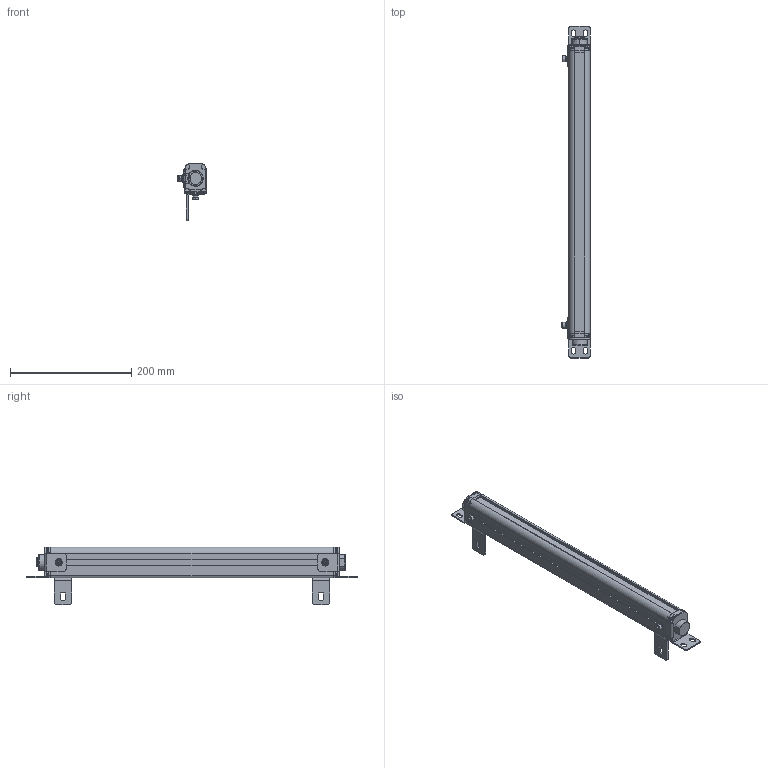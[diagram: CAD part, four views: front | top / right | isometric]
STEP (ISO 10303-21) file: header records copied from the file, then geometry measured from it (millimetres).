
FILE_DESCRIPTION((''),'2;1');
FILE_NAME('ESN--000_ASM','2021-08-10T21:16:05',('18720616900'),(''),'CREO PARAMETRIC BY PTC INC, 2019010','CREO PARAMETRIC BY PTC INC, 2019010','');
FILE_SCHEMA(('CONFIG_CONTROL_DESIGN'));
Products named in the file (22): 00; 000; _0002; _0003; _0004; 5000; 5--0001; ESN_50001_ASM; ST-3-120001; L10001; M6-8--0001; M6-1--00; M6-1-00; M6-80001_ASM; L1--0001_ASM; H1--000; H1--0003_ASM; H1--0001_ASM; ESN--000_ASM
Assembly tree (35 placements, depth 4):
  ESN--000_ASM
    00
    000
    _0002
    _0003
    _0004
    000
    ESN_50001_ASM
      5000
      5--0001  x5
    ST-3-120001  x8
    L1--0001_ASM  x2
      L10001
      M6-80001_ASM
        M6-8--0001
        M6-1--00
        M6-1-00
        00
    H1--0003_ASM
      H1--000
      M6-80001_ASM
        M6-8--0001
        M6-1--00
        M6-1-00
        00
    H1--0001_ASM
      H1--000
      M6-80001_ASM
        M6-8--0001
        M6-1--00
        M6-1-00
        00
Bounding box: 46.5 x 547 x 94.95 mm (x, y, z)
Volume: 746816.7 mm3; surface area: 181373.4 mm2
Topology: 40 solids, 40 shells, 1785 faces, 4708 edges, 3012 vertices
Faces by surface type: plane 583, cylinder 416, bspline 362, cone 291, torus 107, sphere 26
Entity records: 48222 total; most frequent: CARTESIAN_POINT 24957, ORIENTED_EDGE 5136, DIRECTION 4189, EDGE_CURVE 2568, VERTEX_POINT 1669, AXIS2_PLACEMENT_3D 1488, VECTOR 1213, LINE 1213
